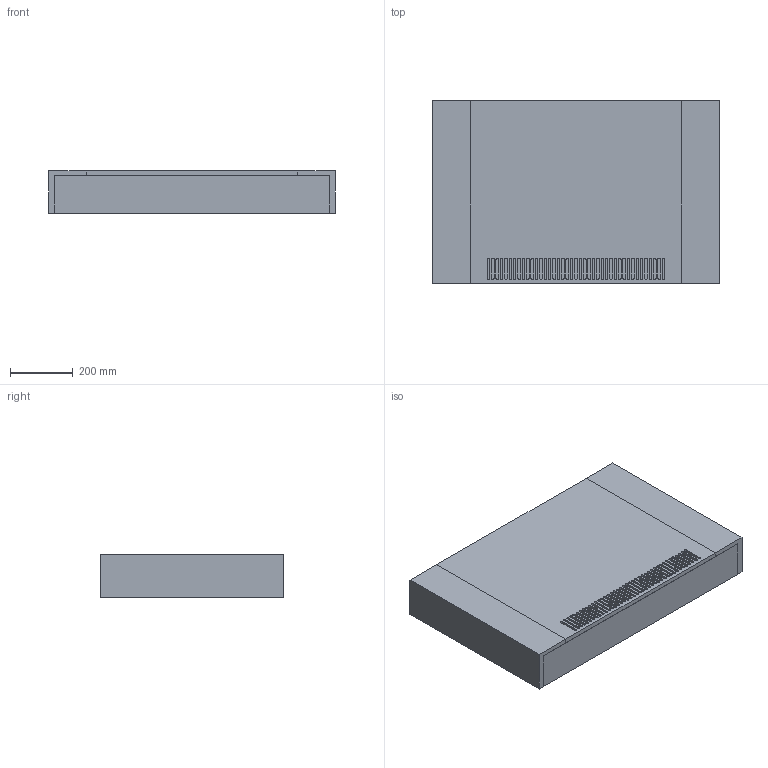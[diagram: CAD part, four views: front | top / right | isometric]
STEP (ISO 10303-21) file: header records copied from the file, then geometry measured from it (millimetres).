
FILE_DESCRIPTION (( 'STEP AP214' ), '1' );
FILE_NAME ('PFWSL_square_model02_4-pipe_v2.STEP', '2024-11-11T13:30:46', ( '' ), ( '' ), 'SwSTEP 2.0', 'SolidWorks 2023', '' );
FILE_SCHEMA (( 'AUTOMOTIVE_DESIGN' ));
Length unit declared in the file: inch
Products named in the file (1): PFWSL_square_model02_4-pipe_v2
Bounding box: 915.99 x 582.61 x 134.94 mm (x, y, z)
Volume: 51242184.6 mm3; surface area: 2947427.9 mm2
Topology: 25 solids, 25 shells, 490 faces, 1258 edges, 836 vertices
Faces by surface type: plane 304, cylinder 178, torus 8
Entity records: 15465 total; most frequent: DIRECTION 2612, CARTESIAN_POINT 2585, ORIENTED_EDGE 2516, EDGE_CURVE 1258, LINE 886, VECTOR 886, AXIS2_PLACEMENT_3D 863, VERTEX_POINT 836
